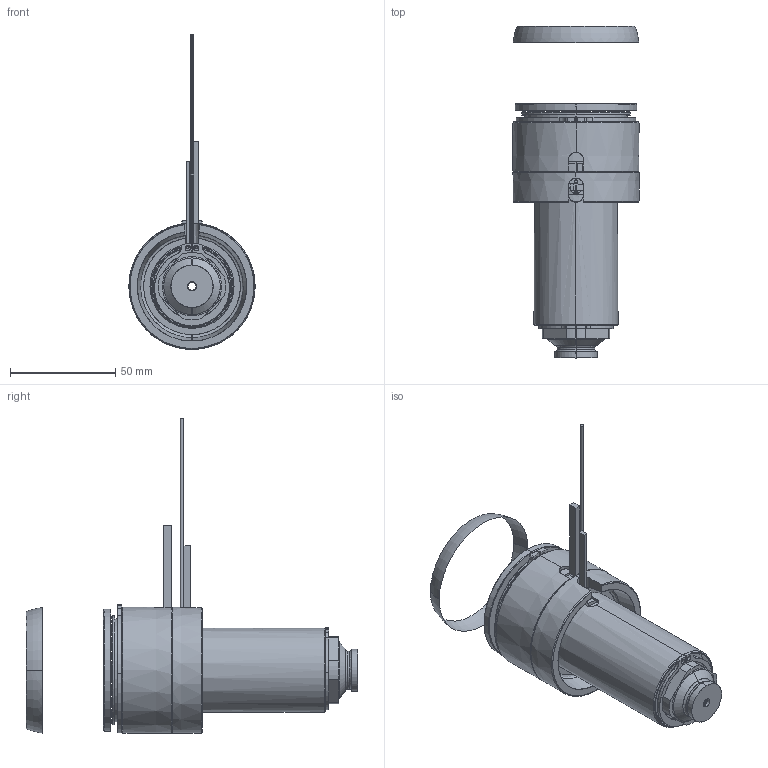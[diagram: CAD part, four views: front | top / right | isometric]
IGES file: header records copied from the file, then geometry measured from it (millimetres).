
Start section: SolidWorks IGES file using analytic representation for surfaces
Global section: file name: C:\Documents and Settings\ws-20\Desktop\TEM\UGER6603-S-A-0 [Øb-3.9 P-0 ØC-15].IGS; native system: SolidWorks 2012; preprocessor: SolidWorks 2012; author: ws-20; date: 120417.115729; units: millimetre
Bounding box: 60 x 157.77 x 149.65 mm (x, y, z)
Surface area: 67862.7 mm2 (no closed solid volume)
Topology: 0 solids, 0 shells, 172 faces, 3382 edges, 3382 vertices
Faces by surface type: revolution 106, bspline 66
